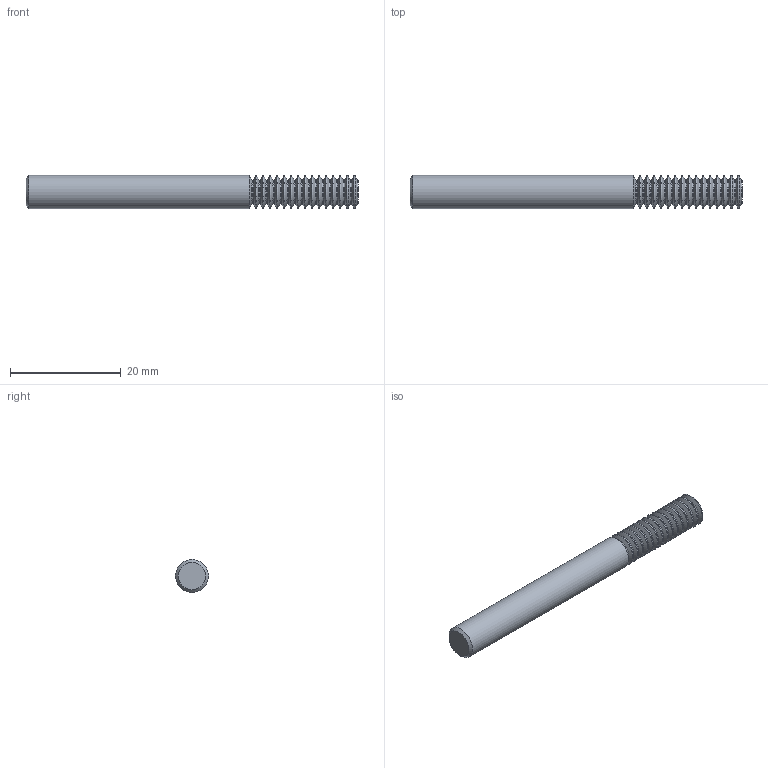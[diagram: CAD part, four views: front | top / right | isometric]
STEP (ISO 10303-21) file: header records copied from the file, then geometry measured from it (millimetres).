
FILE_DESCRIPTION(/* description */ (''),/* implementation_level */ '2;1');
FILE_NAME(/* name */ '00031630-TDM',/* time_stamp */ '2024-02-20T09:28:28+01:00',/* author */ (''),/* organization */ (''),/* preprocessor_version */ 'ST-DEVELOPER v16.5',/* originating_system */ 'HiCAD 2017 2201.0 Build 268',/* authorisation */ '');
FILE_SCHEMA (('AUTOMOTIVE_DESIGN { 1 0 10303 214 1 1 1 1 }'));
Length unit declared in the file: millimetre
Products named in the file (3): Root; ROTATIONSTEIL_0
Assembly tree (2 placements, depth 3):
  Root
    ROTATIONSTEIL_0
      ROTATIONSTEIL_0
Bounding box: 60 x 6 x 6 mm (x, y, z)
Volume: 1536.2 mm3; surface area: 1370.3 mm2
Topology: 2 solids, 2 shells, 100 faces, 196 edges, 100 vertices
Faces by surface type: torus 46, cone 32, cylinder 18, plane 4
Full cylindrical faces by diameter (mm): 4.294 x17, 6 x1
Entity records: 3024 total; most frequent: DIRECTION 404, CARTESIAN_POINT 300, AXIS2_PLACEMENT_3D 202, PRESENTATION_STYLE_ASSIGNMENT 198, COLOUR_RGB 198, DRAUGHTING_PRE_DEFINED_CURVE_FONT 196, CURVE_STYLE 196, OVER_RIDING_STYLED_ITEM 196
